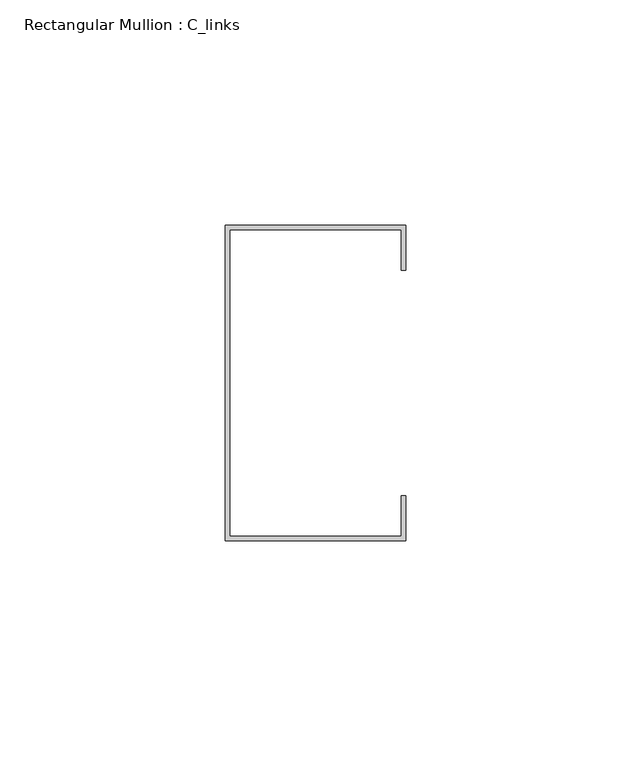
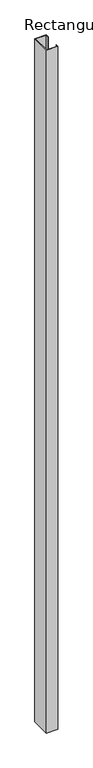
"""IFC4 building model written with IfcOpenShell, lengths in millimetres: member geometry, Rectangular Mullion : C_links."""

from ifc_helpers import new_model, si_unit, frame, origin, place, context, project, spatial, polyline, outline, extrude, source, transform, mapped, element, save


def rectangular_mullion_c_links_526d05c5(model_context):
    return source(origin(), model_context, "Body", "SweptSolid", [
        extrude(outline(polyline([(19.0, 34.0), (-19.0, 34.0), (-19.0, -34.0), (19.0, -34.0), (19.0, -25.0), (20.0, -25.0), (20.0, -35.0), (-20.0, -35.0), (-20.0, 35.0), (20.0, 35.0), (20.0, 25.0), (19.0, 25.0), (19.0, 34.0)])), frame((0.0, 0.0, -2520.0), z_axis=(0.0, 0.0, 1.0), x_axis=(1.0, 0.0, 0.0)), (0.0, 0.0, 1.0), 2520.0),
    ])


if __name__ == "__main__":
    model = new_model("IFC4")
    model_context = context("Model", 3, world=origin())
    ifc_project = project(units=[si_unit("LENGTHUNIT", "METRE", prefix="MILLI")], contexts=[model_context])
    site = spatial("IfcSite", under=ifc_project)
    building = spatial("IfcBuilding", under=site)
    placement = place(None, origin())
    rectangular_mullion_c_links_shape = rectangular_mullion_c_links_526d05c5(model_context)
    element("IfcMember", 1, ObjectType="Rectangular Mullion : C_links", at=placement, inside=building, context=model_context, shape_type="MappedRepresentation", body=[
        mapped(rectangular_mullion_c_links_shape, transform((0.0, 0.0, 0.0), x_axis=(1.0, 0.0, 0.0), y_axis=(0.0, 1.0, 0.0), z_axis=(0.0, 0.0, 1.0))),
    ])
    save(model, "model.ifc")
